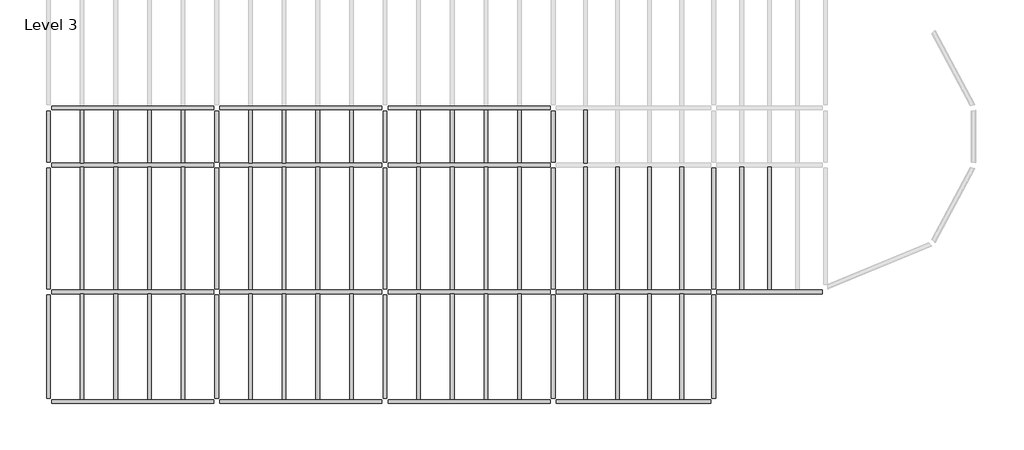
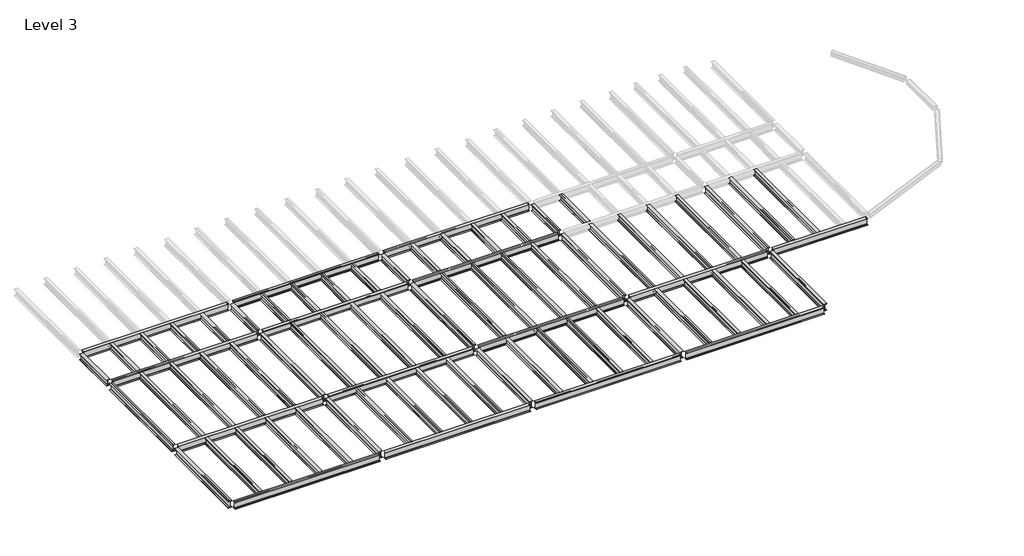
# One storey, part 1 of 2: 76 beams.
"""IFC4 building model written with IfcOpenShell, lengths in millimetres."""

from ifc_helpers import new_model, si_unit, origin, place, context, project, spatial, transform, mapped, element, save
from components import w_shapes_w12x26_ac08b433, w_shapes_w12x26_80971791, w_shapes_w12x26_13ab2ca8, w_shapes_w12x26_1a00c8bd, w_shapes_w14x30_2b5df836, w_shapes_w14x30_7cdcd298, w_shapes_w14x30_aa676985, w_shapes_w14x30_0fa609c7, w_shapes_w14x30_0dffa004

model = new_model("IFC4")

# Units and contexts
model_context = context("Model", 3, world=origin())
ifc_project = project(units=[si_unit("LENGTHUNIT", "METRE", prefix="MILLI")], contexts=[model_context])

# Site, building, storey
site = spatial("IfcSite", under=ifc_project)
building = spatial("IfcBuilding", under=site)
storey = spatial("IfcBuildingStorey", under=building, Name="Level 3", Elevation=7162.8)

# Beams
placement = place(None, origin())
w_shapes_w12x26_shape = w_shapes_w12x26_ac08b433(model_context)
element("IfcBeam", 1, ObjectType="W Shapes : W12X26", at=placement, inside=storey, context=model_context, shape_type="MappedRepresentation", body=[
    mapped(w_shapes_w12x26_shape, transform((-17242.6535279, -2505.8101681, 7007.86), x_axis=(0.0, -1.0, 0.0), y_axis=(1.0, 0.0, 0.0), z_axis=(0.0, 0.0, 1.0))),
])
element("IfcBeam", 2, ObjectType="W Shapes : W12X26", at=placement, inside=storey, context=model_context, shape_type="MappedRepresentation", body=[
    mapped(w_shapes_w12x26_shape, transform((-9622.6535279, -2505.8101681, 7007.86), x_axis=(0.0, -1.0, 0.0), y_axis=(1.0, 0.0, 0.0), z_axis=(0.0, 0.0, 1.0))),
])
element("IfcBeam", 3, ObjectType="W Shapes : W12X26", at=placement, inside=storey, context=model_context, shape_type="MappedRepresentation", body=[
    mapped(w_shapes_w12x26_shape, transform((-2002.6535279, -2505.8101681, 7007.86), x_axis=(0.0, -1.0, 0.0), y_axis=(1.0, 0.0, 0.0), z_axis=(0.0, 0.0, 1.0))),
])
element("IfcBeam", 4, ObjectType="W Shapes : W12X26", at=placement, inside=storey, context=model_context, shape_type="MappedRepresentation", body=[
    mapped(w_shapes_w12x26_shape, transform((5617.3464721, -2505.8101681, 7007.86), x_axis=(0.0, -1.0, 0.0), y_axis=(1.0, 0.0, 0.0), z_axis=(0.0, 0.0, 1.0))),
])
w_shapes_w12x26_2_shape = w_shapes_w12x26_80971791(model_context)
element("IfcBeam", 5, ObjectType="W Shapes : W12X26", at=placement, inside=storey, context=model_context, shape_type="MappedRepresentation", body=[
    mapped(w_shapes_w12x26_2_shape, transform((-11146.6535279, -12033.9851681, 7007.86), x_axis=(0.0, -1.0, 0.0), y_axis=(1.0, 0.0, 0.0), z_axis=(0.0, 0.0, 1.0))),
])
element("IfcBeam", 6, ObjectType="W Shapes : W12X26", at=placement, inside=storey, context=model_context, shape_type="MappedRepresentation", body=[
    mapped(w_shapes_w12x26_2_shape, transform((-12670.6535279, -12033.9851681, 7007.86), x_axis=(0.0, -1.0, 0.0), y_axis=(1.0, 0.0, 0.0), z_axis=(0.0, 0.0, 1.0))),
])
element("IfcBeam", 7, ObjectType="W Shapes : W12X26", at=placement, inside=storey, context=model_context, shape_type="MappedRepresentation", body=[
    mapped(w_shapes_w12x26_2_shape, transform((-14194.6535279, -12033.9851681, 7007.86), x_axis=(0.0, -1.0, 0.0), y_axis=(1.0, 0.0, 0.0), z_axis=(0.0, 0.0, 1.0))),
])
element("IfcBeam", 8, ObjectType="W Shapes : W12X26", at=placement, inside=storey, context=model_context, shape_type="MappedRepresentation", body=[
    mapped(w_shapes_w12x26_2_shape, transform((-15718.6535279, -12033.9851681, 7007.86), x_axis=(0.0, -1.0, 0.0), y_axis=(1.0, 0.0, 0.0), z_axis=(0.0, 0.0, 1.0))),
])
element("IfcBeam", 9, ObjectType="W Shapes : W12X26", at=placement, inside=storey, context=model_context, shape_type="MappedRepresentation", body=[
    mapped(w_shapes_w12x26_2_shape, transform((-3526.6535279, -12033.9851681, 7007.86), x_axis=(0.0, -1.0, 0.0), y_axis=(1.0, 0.0, 0.0), z_axis=(0.0, 0.0, 1.0))),
])
element("IfcBeam", 10, ObjectType="W Shapes : W12X26", at=placement, inside=storey, context=model_context, shape_type="MappedRepresentation", body=[
    mapped(w_shapes_w12x26_2_shape, transform((-5050.6535279, -12033.9851681, 7007.86), x_axis=(0.0, -1.0, 0.0), y_axis=(1.0, 0.0, 0.0), z_axis=(0.0, 0.0, 1.0))),
])
element("IfcBeam", 11, ObjectType="W Shapes : W12X26", at=placement, inside=storey, context=model_context, shape_type="MappedRepresentation", body=[
    mapped(w_shapes_w12x26_2_shape, transform((-6574.6535279, -12033.9851681, 7007.86), x_axis=(0.0, -1.0, 0.0), y_axis=(1.0, 0.0, 0.0), z_axis=(0.0, 0.0, 1.0))),
])
element("IfcBeam", 12, ObjectType="W Shapes : W12X26", at=placement, inside=storey, context=model_context, shape_type="MappedRepresentation", body=[
    mapped(w_shapes_w12x26_2_shape, transform((-8098.6535279, -12033.9851681, 7007.86), x_axis=(0.0, -1.0, 0.0), y_axis=(1.0, 0.0, 0.0), z_axis=(0.0, 0.0, 1.0))),
])
element("IfcBeam", 13, ObjectType="W Shapes : W12X26", at=placement, inside=storey, context=model_context, shape_type="MappedRepresentation", body=[
    mapped(w_shapes_w12x26_2_shape, transform((-478.6535279, -12033.9851681, 7007.86), x_axis=(0.0, 1.0, 0.0), y_axis=(-1.0, 0.0, 0.0), z_axis=(0.0, 0.0, 1.0))),
])
element("IfcBeam", 14, ObjectType="W Shapes : W12X26", at=placement, inside=storey, context=model_context, shape_type="MappedRepresentation", body=[
    mapped(w_shapes_w12x26_2_shape, transform((1045.3464721, -12033.9851681, 7007.86), x_axis=(0.0, 1.0, 0.0), y_axis=(-1.0, 0.0, 0.0), z_axis=(0.0, 0.0, 1.0))),
])
element("IfcBeam", 15, ObjectType="W Shapes : W12X26", at=placement, inside=storey, context=model_context, shape_type="MappedRepresentation", body=[
    mapped(w_shapes_w12x26_2_shape, transform((2569.3464721, -12033.9851681, 7007.86), x_axis=(0.0, 1.0, 0.0), y_axis=(-1.0, 0.0, 0.0), z_axis=(0.0, 0.0, 1.0))),
])
element("IfcBeam", 16, ObjectType="W Shapes : W12X26", at=placement, inside=storey, context=model_context, shape_type="MappedRepresentation", body=[
    mapped(w_shapes_w12x26_2_shape, transform((4093.3464721, -12033.9851681, 7007.86), x_axis=(0.0, 1.0, 0.0), y_axis=(-1.0, 0.0, 0.0), z_axis=(0.0, 0.0, 1.0))),
])
element("IfcBeam", 17, ObjectType="W Shapes : W12X26", at=placement, inside=storey, context=model_context, shape_type="MappedRepresentation", body=[
    mapped(w_shapes_w12x26_2_shape, transform((11431.4064721, -12033.9851681, 7007.86), x_axis=(0.0, -1.0, 0.0), y_axis=(1.0, 0.0, 0.0), z_axis=(0.0, 0.0, 1.0))),
])
element("IfcBeam", 18, ObjectType="W Shapes : W12X26", at=placement, inside=storey, context=model_context, shape_type="MappedRepresentation", body=[
    mapped(w_shapes_w12x26_2_shape, transform((9977.8914721, -12033.9851681, 7007.86), x_axis=(0.0, -1.0, 0.0), y_axis=(1.0, 0.0, 0.0), z_axis=(0.0, 0.0, 1.0))),
])
element("IfcBeam", 19, ObjectType="W Shapes : W12X26", at=placement, inside=storey, context=model_context, shape_type="MappedRepresentation", body=[
    mapped(w_shapes_w12x26_2_shape, transform((8524.3764721, -12033.9851681, 7007.86), x_axis=(0.0, -1.0, 0.0), y_axis=(1.0, 0.0, 0.0), z_axis=(0.0, 0.0, 1.0))),
])
element("IfcBeam", 20, ObjectType="W Shapes : W12X26", at=placement, inside=storey, context=model_context, shape_type="MappedRepresentation", body=[
    mapped(w_shapes_w12x26_2_shape, transform((7070.8614721, -12033.9851681, 7007.86), x_axis=(0.0, -1.0, 0.0), y_axis=(1.0, 0.0, 0.0), z_axis=(0.0, 0.0, 1.0))),
])
w_shapes_w12x26_3_shape = w_shapes_w12x26_13ab2ca8(model_context)
element("IfcBeam", 21, ObjectType="W Shapes : W12X26", at=placement, inside=storey, context=model_context, shape_type="MappedRepresentation", body=[
    mapped(w_shapes_w12x26_3_shape, transform((7070.8614721, -6674.5851681, 7007.86), x_axis=(0.0, 1.0, 0.0), y_axis=(-1.0, 0.0, 0.0), z_axis=(0.0, 0.0, 1.0))),
])
element("IfcBeam", 22, ObjectType="W Shapes : W12X26", at=placement, inside=storey, context=model_context, shape_type="MappedRepresentation", body=[
    mapped(w_shapes_w12x26_3_shape, transform((8524.3764721, -6674.5851681, 7007.86), x_axis=(0.0, 1.0, 0.0), y_axis=(-1.0, 0.0, 0.0), z_axis=(0.0, 0.0, 1.0))),
])
element("IfcBeam", 23, ObjectType="W Shapes : W12X26", at=placement, inside=storey, context=model_context, shape_type="MappedRepresentation", body=[
    mapped(w_shapes_w12x26_3_shape, transform((9977.8914721, -6674.5851681, 7007.86), x_axis=(0.0, 1.0, 0.0), y_axis=(-1.0, 0.0, 0.0), z_axis=(0.0, 0.0, 1.0))),
])
element("IfcBeam", 24, ObjectType="W Shapes : W12X26", at=placement, inside=storey, context=model_context, shape_type="MappedRepresentation", body=[
    mapped(w_shapes_w12x26_3_shape, transform((11431.4064721, -6674.5851681, 7007.86), x_axis=(0.0, 1.0, 0.0), y_axis=(-1.0, 0.0, 0.0), z_axis=(0.0, 0.0, 1.0))),
])
element("IfcBeam", 25, ObjectType="W Shapes : W12X26", at=placement, inside=storey, context=model_context, shape_type="MappedRepresentation", body=[
    mapped(w_shapes_w12x26_3_shape, transform((4093.3464721, -6674.5851681, 7007.86), x_axis=(0.0, -1.0, 0.0), y_axis=(1.0, 0.0, 0.0), z_axis=(0.0, 0.0, 1.0))),
])
element("IfcBeam", 26, ObjectType="W Shapes : W12X26", at=placement, inside=storey, context=model_context, shape_type="MappedRepresentation", body=[
    mapped(w_shapes_w12x26_3_shape, transform((2569.3464721, -6674.5851681, 7007.86), x_axis=(0.0, -1.0, 0.0), y_axis=(1.0, 0.0, 0.0), z_axis=(0.0, 0.0, 1.0))),
])
element("IfcBeam", 27, ObjectType="W Shapes : W12X26", at=placement, inside=storey, context=model_context, shape_type="MappedRepresentation", body=[
    mapped(w_shapes_w12x26_3_shape, transform((1045.3464721, -6674.5851681, 7007.86), x_axis=(0.0, -1.0, 0.0), y_axis=(1.0, 0.0, 0.0), z_axis=(0.0, 0.0, 1.0))),
])
element("IfcBeam", 28, ObjectType="W Shapes : W12X26", at=placement, inside=storey, context=model_context, shape_type="MappedRepresentation", body=[
    mapped(w_shapes_w12x26_3_shape, transform((-478.6535279, -6674.5851681, 7007.86), x_axis=(0.0, -1.0, 0.0), y_axis=(1.0, 0.0, 0.0), z_axis=(0.0, 0.0, 1.0))),
])
element("IfcBeam", 29, ObjectType="W Shapes : W12X26", at=placement, inside=storey, context=model_context, shape_type="MappedRepresentation", body=[
    mapped(w_shapes_w12x26_3_shape, transform((-8098.6535279, -6674.5851681, 7007.86), x_axis=(0.0, 1.0, 0.0), y_axis=(-1.0, 0.0, 0.0), z_axis=(0.0, 0.0, 1.0))),
])
element("IfcBeam", 30, ObjectType="W Shapes : W12X26", at=placement, inside=storey, context=model_context, shape_type="MappedRepresentation", body=[
    mapped(w_shapes_w12x26_3_shape, transform((-6574.6535279, -6674.5851681, 7007.86), x_axis=(0.0, 1.0, 0.0), y_axis=(-1.0, 0.0, 0.0), z_axis=(0.0, 0.0, 1.0))),
])
element("IfcBeam", 31, ObjectType="W Shapes : W12X26", at=placement, inside=storey, context=model_context, shape_type="MappedRepresentation", body=[
    mapped(w_shapes_w12x26_3_shape, transform((-5050.6535279, -6674.5851681, 7007.86), x_axis=(0.0, 1.0, 0.0), y_axis=(-1.0, 0.0, 0.0), z_axis=(0.0, 0.0, 1.0))),
])
element("IfcBeam", 32, ObjectType="W Shapes : W12X26", at=placement, inside=storey, context=model_context, shape_type="MappedRepresentation", body=[
    mapped(w_shapes_w12x26_3_shape, transform((-3526.6535279, -6674.5851681, 7007.86), x_axis=(0.0, 1.0, 0.0), y_axis=(-1.0, 0.0, 0.0), z_axis=(0.0, 0.0, 1.0))),
])
element("IfcBeam", 33, ObjectType="W Shapes : W12X26", at=placement, inside=storey, context=model_context, shape_type="MappedRepresentation", body=[
    mapped(w_shapes_w12x26_3_shape, transform((-11146.6535279, -6674.5851681, 7007.86), x_axis=(0.0, -1.0, 0.0), y_axis=(1.0, 0.0, 0.0), z_axis=(0.0, 0.0, 1.0))),
])
element("IfcBeam", 34, ObjectType="W Shapes : W12X26", at=placement, inside=storey, context=model_context, shape_type="MappedRepresentation", body=[
    mapped(w_shapes_w12x26_3_shape, transform((-12670.6535279, -6674.5851681, 7007.86), x_axis=(0.0, -1.0, 0.0), y_axis=(1.0, 0.0, 0.0), z_axis=(0.0, 0.0, 1.0))),
])
element("IfcBeam", 35, ObjectType="W Shapes : W12X26", at=placement, inside=storey, context=model_context, shape_type="MappedRepresentation", body=[
    mapped(w_shapes_w12x26_3_shape, transform((-14194.6535279, -6674.5851681, 7007.86), x_axis=(0.0, -1.0, 0.0), y_axis=(1.0, 0.0, 0.0), z_axis=(0.0, 0.0, 1.0))),
])
element("IfcBeam", 36, ObjectType="W Shapes : W12X26", at=placement, inside=storey, context=model_context, shape_type="MappedRepresentation", body=[
    mapped(w_shapes_w12x26_3_shape, transform((-15718.6535279, -6674.5851681, 7007.86), x_axis=(0.0, -1.0, 0.0), y_axis=(1.0, 0.0, 0.0), z_axis=(0.0, 0.0, 1.0))),
])
element("IfcBeam", 37, ObjectType="W Shapes : W12X26", at=placement, inside=storey, context=model_context, shape_type="MappedRepresentation", body=[
    mapped(w_shapes_w12x26_3_shape, transform((15411.4277221, -6674.5851681, 7007.86), x_axis=(0.0, 1.0, 0.0), y_axis=(-1.0, 0.0, 0.0), z_axis=(0.0, 0.0, 1.0))),
])
element("IfcBeam", 38, ObjectType="W Shapes : W12X26", at=placement, inside=storey, context=model_context, shape_type="MappedRepresentation", body=[
    mapped(w_shapes_w12x26_3_shape, transform((14148.1745971, -6674.5851681, 7007.86), x_axis=(0.0, 1.0, 0.0), y_axis=(-1.0, 0.0, 0.0), z_axis=(0.0, 0.0, 1.0))),
])
w_shapes_w12x26_4_shape = w_shapes_w12x26_1a00c8bd(model_context)
element("IfcBeam", 39, ObjectType="W Shapes : W12X26", at=placement, inside=storey, context=model_context, shape_type="MappedRepresentation", body=[
    mapped(w_shapes_w12x26_4_shape, transform((-11146.6535279, -2505.8101681, 7007.86), x_axis=(0.0, -1.0, 0.0), y_axis=(1.0, 0.0, 0.0), z_axis=(0.0, 0.0, 1.0))),
])
element("IfcBeam", 40, ObjectType="W Shapes : W12X26", at=placement, inside=storey, context=model_context, shape_type="MappedRepresentation", body=[
    mapped(w_shapes_w12x26_4_shape, transform((-12670.6535279, -2505.8101681, 7007.86), x_axis=(0.0, -1.0, 0.0), y_axis=(1.0, 0.0, 0.0), z_axis=(0.0, 0.0, 1.0))),
])
element("IfcBeam", 41, ObjectType="W Shapes : W12X26", at=placement, inside=storey, context=model_context, shape_type="MappedRepresentation", body=[
    mapped(w_shapes_w12x26_4_shape, transform((-14194.6535279, -2505.8101681, 7007.86), x_axis=(0.0, -1.0, 0.0), y_axis=(1.0, 0.0, 0.0), z_axis=(0.0, 0.0, 1.0))),
])
element("IfcBeam", 42, ObjectType="W Shapes : W12X26", at=placement, inside=storey, context=model_context, shape_type="MappedRepresentation", body=[
    mapped(w_shapes_w12x26_4_shape, transform((-15718.6535279, -2505.8101681, 7007.86), x_axis=(0.0, -1.0, 0.0), y_axis=(1.0, 0.0, 0.0), z_axis=(0.0, 0.0, 1.0))),
])
element("IfcBeam", 43, ObjectType="W Shapes : W12X26", at=placement, inside=storey, context=model_context, shape_type="MappedRepresentation", body=[
    mapped(w_shapes_w12x26_4_shape, transform((-3526.6535279, -2505.8101681, 7007.86), x_axis=(0.0, -1.0, 0.0), y_axis=(1.0, 0.0, 0.0), z_axis=(0.0, 0.0, 1.0))),
])
element("IfcBeam", 44, ObjectType="W Shapes : W12X26", at=placement, inside=storey, context=model_context, shape_type="MappedRepresentation", body=[
    mapped(w_shapes_w12x26_4_shape, transform((-5050.6535279, -2505.8101681, 7007.86), x_axis=(0.0, -1.0, 0.0), y_axis=(1.0, 0.0, 0.0), z_axis=(0.0, 0.0, 1.0))),
])
element("IfcBeam", 45, ObjectType="W Shapes : W12X26", at=placement, inside=storey, context=model_context, shape_type="MappedRepresentation", body=[
    mapped(w_shapes_w12x26_4_shape, transform((-6574.6535279, -2505.8101681, 7007.86), x_axis=(0.0, -1.0, 0.0), y_axis=(1.0, 0.0, 0.0), z_axis=(0.0, 0.0, 1.0))),
])
element("IfcBeam", 46, ObjectType="W Shapes : W12X26", at=placement, inside=storey, context=model_context, shape_type="MappedRepresentation", body=[
    mapped(w_shapes_w12x26_4_shape, transform((-8098.6535279, -2505.8101681, 7007.86), x_axis=(0.0, -1.0, 0.0), y_axis=(1.0, 0.0, 0.0), z_axis=(0.0, 0.0, 1.0))),
])
element("IfcBeam", 47, ObjectType="W Shapes : W12X26", at=placement, inside=storey, context=model_context, shape_type="MappedRepresentation", body=[
    mapped(w_shapes_w12x26_4_shape, transform((4093.3464721, -2505.8101681, 7007.86), x_axis=(0.0, -1.0, 0.0), y_axis=(1.0, 0.0, 0.0), z_axis=(0.0, 0.0, 1.0))),
])
element("IfcBeam", 48, ObjectType="W Shapes : W12X26", at=placement, inside=storey, context=model_context, shape_type="MappedRepresentation", body=[
    mapped(w_shapes_w12x26_4_shape, transform((2569.3464721, -2505.8101681, 7007.86), x_axis=(0.0, -1.0, 0.0), y_axis=(1.0, 0.0, 0.0), z_axis=(0.0, 0.0, 1.0))),
])
element("IfcBeam", 49, ObjectType="W Shapes : W12X26", at=placement, inside=storey, context=model_context, shape_type="MappedRepresentation", body=[
    mapped(w_shapes_w12x26_4_shape, transform((1045.3464721, -2505.8101681, 7007.86), x_axis=(0.0, -1.0, 0.0), y_axis=(1.0, 0.0, 0.0), z_axis=(0.0, 0.0, 1.0))),
])
element("IfcBeam", 50, ObjectType="W Shapes : W12X26", at=placement, inside=storey, context=model_context, shape_type="MappedRepresentation", body=[
    mapped(w_shapes_w12x26_4_shape, transform((-478.6535279, -2505.8101681, 7007.86), x_axis=(0.0, -1.0, 0.0), y_axis=(1.0, 0.0, 0.0), z_axis=(0.0, 0.0, 1.0))),
])
element("IfcBeam", 51, ObjectType="W Shapes : W12X26", at=placement, inside=storey, context=model_context, shape_type="MappedRepresentation", body=[
    mapped(w_shapes_w12x26_4_shape, transform((7070.8614721, -2505.8101681, 7007.86), x_axis=(0.0, -1.0, 0.0), y_axis=(1.0, 0.0, 0.0), z_axis=(0.0, 0.0, 1.0))),
])
w_shapes_w14x30_shape = w_shapes_w14x30_2b5df836(model_context)
element("IfcBeam", 52, ObjectType="W Shapes : W14X30", at=placement, inside=storey, context=model_context, shape_type="MappedRepresentation", body=[
    mapped(w_shapes_w14x30_shape, transform((1807.3464721, -1208.8226681, 6987.54), x_axis=(-1.0, 0.0, 0.0), y_axis=(0.0, -1.0, 0.0), z_axis=(0.0, 0.0, 1.0))),
])
element("IfcBeam", 53, ObjectType="W Shapes : W14X30", at=placement, inside=storey, context=model_context, shape_type="MappedRepresentation", body=[
    mapped(w_shapes_w14x30_shape, transform((-5812.6535279, -1208.8226681, 6987.54), x_axis=(-1.0, 0.0, 0.0), y_axis=(0.0, -1.0, 0.0), z_axis=(0.0, 0.0, 1.0))),
])
element("IfcBeam", 54, ObjectType="W Shapes : W14X30", at=placement, inside=storey, context=model_context, shape_type="MappedRepresentation", body=[
    mapped(w_shapes_w14x30_shape, transform((-13432.6535279, -1208.8226681, 6987.54), x_axis=(-1.0, 0.0, 0.0), y_axis=(0.0, -1.0, 0.0), z_axis=(0.0, 0.0, 1.0))),
])
element("IfcBeam", 55, ObjectType="W Shapes : W14X30", at=placement, inside=storey, context=model_context, shape_type="MappedRepresentation", body=[
    mapped(w_shapes_w14x30_shape, transform((-13432.6535279, -3802.7976681, 6987.54), x_axis=(1.0, 0.0, 0.0), y_axis=(0.0, 1.0, 0.0), z_axis=(0.0, 0.0, 1.0))),
])
element("IfcBeam", 56, ObjectType="W Shapes : W14X30", at=placement, inside=storey, context=model_context, shape_type="MappedRepresentation", body=[
    mapped(w_shapes_w14x30_shape, transform((-5812.6535279, -3802.7976681, 6987.54), x_axis=(1.0, 0.0, 0.0), y_axis=(0.0, 1.0, 0.0), z_axis=(0.0, 0.0, 1.0))),
])
element("IfcBeam", 57, ObjectType="W Shapes : W14X30", at=placement, inside=storey, context=model_context, shape_type="MappedRepresentation", body=[
    mapped(w_shapes_w14x30_shape, transform((1807.3464721, -3802.7976681, 6987.54), x_axis=(1.0, 0.0, 0.0), y_axis=(0.0, 1.0, 0.0), z_axis=(0.0, 0.0, 1.0))),
])
element("IfcBeam", 58, ObjectType="W Shapes : W14X30", at=placement, inside=storey, context=model_context, shape_type="MappedRepresentation", body=[
    mapped(w_shapes_w14x30_shape, transform((1807.3464721, -9546.3726681, 6987.54), x_axis=(-1.0, 0.0, 0.0), y_axis=(0.0, -1.0, 0.0), z_axis=(0.0, 0.0, 1.0))),
])
element("IfcBeam", 59, ObjectType="W Shapes : W14X30", at=placement, inside=storey, context=model_context, shape_type="MappedRepresentation", body=[
    mapped(w_shapes_w14x30_shape, transform((-5812.6535279, -9546.3726681, 6987.54), x_axis=(-1.0, 0.0, 0.0), y_axis=(0.0, -1.0, 0.0), z_axis=(0.0, 0.0, 1.0))),
])
element("IfcBeam", 60, ObjectType="W Shapes : W14X30", at=placement, inside=storey, context=model_context, shape_type="MappedRepresentation", body=[
    mapped(w_shapes_w14x30_shape, transform((-13432.6535279, -9546.3726681, 6987.54), x_axis=(-1.0, 0.0, 0.0), y_axis=(0.0, -1.0, 0.0), z_axis=(0.0, 0.0, 1.0))),
])
element("IfcBeam", 61, ObjectType="W Shapes : W14X30", at=placement, inside=storey, context=model_context, shape_type="MappedRepresentation", body=[
    mapped(w_shapes_w14x30_shape, transform((-13432.6535279, -14521.5976681, 6987.54), x_axis=(1.0, 0.0, 0.0), y_axis=(0.0, 1.0, 0.0), z_axis=(0.0, 0.0, 1.0))),
])
element("IfcBeam", 62, ObjectType="W Shapes : W14X30", at=placement, inside=storey, context=model_context, shape_type="MappedRepresentation", body=[
    mapped(w_shapes_w14x30_shape, transform((-5812.6535279, -14521.5976681, 6987.54), x_axis=(1.0, 0.0, 0.0), y_axis=(0.0, 1.0, 0.0), z_axis=(0.0, 0.0, 1.0))),
])
element("IfcBeam", 63, ObjectType="W Shapes : W14X30", at=placement, inside=storey, context=model_context, shape_type="MappedRepresentation", body=[
    mapped(w_shapes_w14x30_shape, transform((1807.3464721, -14521.5976681, 6987.54), x_axis=(1.0, 0.0, 0.0), y_axis=(0.0, 1.0, 0.0), z_axis=(0.0, 0.0, 1.0))),
])
w_shapes_w14x30_2_shape = w_shapes_w14x30_7cdcd298(model_context)
element("IfcBeam", 64, ObjectType="W Shapes : W14X30", at=placement, inside=storey, context=model_context, shape_type="MappedRepresentation", body=[
    mapped(w_shapes_w14x30_2_shape, transform((9251.1339721, -9546.3726681, 6987.54), x_axis=(-1.0, 0.0, 0.0), y_axis=(0.0, -1.0, 0.0), z_axis=(0.0, 0.0, 1.0))),
])
element("IfcBeam", 65, ObjectType="W Shapes : W14X30", at=placement, inside=storey, context=model_context, shape_type="MappedRepresentation", body=[
    mapped(w_shapes_w14x30_2_shape, transform((9251.1339721, -14521.5976681, 6987.54), x_axis=(1.0, 0.0, 0.0), y_axis=(0.0, 1.0, 0.0), z_axis=(0.0, 0.0, 1.0))),
])
w_shapes_w14x30_3_shape = w_shapes_w14x30_aa676985(model_context)
element("IfcBeam", 66, ObjectType="W Shapes : W14X30", at=placement, inside=storey, context=model_context, shape_type="MappedRepresentation", body=[
    mapped(w_shapes_w14x30_3_shape, transform((-17242.6535279, -12033.9851681, 6987.54), x_axis=(0.0, -1.0, 0.0), y_axis=(1.0, 0.0, 0.0), z_axis=(0.0, 0.0, 1.0))),
])
element("IfcBeam", 67, ObjectType="W Shapes : W14X30", at=placement, inside=storey, context=model_context, shape_type="MappedRepresentation", body=[
    mapped(w_shapes_w14x30_3_shape, transform((12884.9214721, -12033.9851681, 6987.54), x_axis=(0.0, 1.0, 0.0), y_axis=(-1.0, 0.0, 0.0), z_axis=(0.0, 0.0, 1.0))),
])
element("IfcBeam", 68, ObjectType="W Shapes : W14X30", at=placement, inside=storey, context=model_context, shape_type="MappedRepresentation", body=[
    mapped(w_shapes_w14x30_3_shape, transform((-9622.6535279, -12033.9851681, 6987.54), x_axis=(0.0, -1.0, 0.0), y_axis=(1.0, 0.0, 0.0), z_axis=(0.0, 0.0, 1.0))),
])
element("IfcBeam", 69, ObjectType="W Shapes : W14X30", at=placement, inside=storey, context=model_context, shape_type="MappedRepresentation", body=[
    mapped(w_shapes_w14x30_3_shape, transform((-2002.6535279, -12033.9851681, 6987.54), x_axis=(0.0, 1.0, 0.0), y_axis=(-1.0, 0.0, 0.0), z_axis=(0.0, 0.0, 1.0))),
])
element("IfcBeam", 70, ObjectType="W Shapes : W14X30", at=placement, inside=storey, context=model_context, shape_type="MappedRepresentation", body=[
    mapped(w_shapes_w14x30_3_shape, transform((5617.3464721, -12033.9851681, 6987.54), x_axis=(0.0, -1.0, 0.0), y_axis=(1.0, 0.0, 0.0), z_axis=(0.0, 0.0, 1.0))),
])
w_shapes_w14x30_4_shape = w_shapes_w14x30_0fa609c7(model_context)
element("IfcBeam", 71, ObjectType="W Shapes : W14X30", at=placement, inside=storey, context=model_context, shape_type="MappedRepresentation", body=[
    mapped(w_shapes_w14x30_4_shape, transform((15411.4277221, -9546.3726681, 6987.54), x_axis=(-1.0, 0.0, 0.0), y_axis=(0.0, -1.0, 0.0), z_axis=(0.0, 0.0, 1.0))),
])
w_shapes_w14x30_5_shape = w_shapes_w14x30_0dffa004(model_context)
element("IfcBeam", 72, ObjectType="W Shapes : W14X30", at=placement, inside=storey, context=model_context, shape_type="MappedRepresentation", body=[
    mapped(w_shapes_w14x30_5_shape, transform((12884.9214721, -6674.5851681, 6987.54), x_axis=(0.0, 1.0, 0.0), y_axis=(-1.0, 0.0, 0.0), z_axis=(0.0, 0.0, 1.0))),
])
element("IfcBeam", 73, ObjectType="W Shapes : W14X30", at=placement, inside=storey, context=model_context, shape_type="MappedRepresentation", body=[
    mapped(w_shapes_w14x30_5_shape, transform((-17242.6535279, -6674.5851681, 6987.54), x_axis=(0.0, 1.0, 0.0), y_axis=(-1.0, 0.0, 0.0), z_axis=(0.0, 0.0, 1.0))),
])
element("IfcBeam", 74, ObjectType="W Shapes : W14X30", at=placement, inside=storey, context=model_context, shape_type="MappedRepresentation", body=[
    mapped(w_shapes_w14x30_5_shape, transform((-9622.6535279, -6674.5851681, 6987.54), x_axis=(0.0, -1.0, 0.0), y_axis=(1.0, 0.0, 0.0), z_axis=(0.0, 0.0, 1.0))),
])
element("IfcBeam", 75, ObjectType="W Shapes : W14X30", at=placement, inside=storey, context=model_context, shape_type="MappedRepresentation", body=[
    mapped(w_shapes_w14x30_5_shape, transform((-2002.6535279, -6674.5851681, 6987.54), x_axis=(0.0, 1.0, 0.0), y_axis=(-1.0, 0.0, 0.0), z_axis=(0.0, 0.0, 1.0))),
])
element("IfcBeam", 76, ObjectType="W Shapes : W14X30", at=placement, inside=storey, context=model_context, shape_type="MappedRepresentation", body=[
    mapped(w_shapes_w14x30_5_shape, transform((5617.3464721, -6674.5851681, 6987.54), x_axis=(0.0, -1.0, 0.0), y_axis=(1.0, 0.0, 0.0), z_axis=(0.0, 0.0, 1.0))),
])

save(model, "model.ifc")
